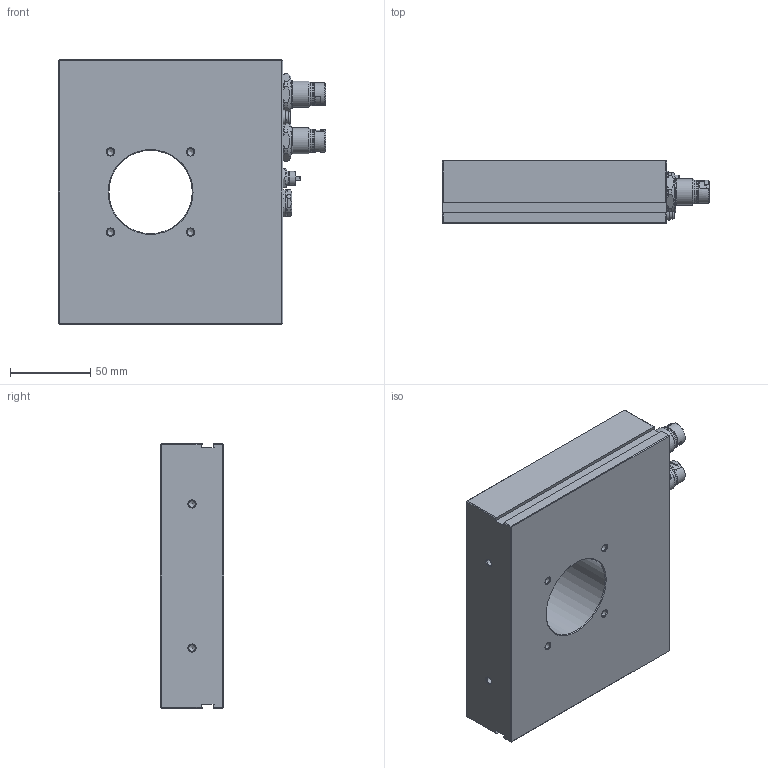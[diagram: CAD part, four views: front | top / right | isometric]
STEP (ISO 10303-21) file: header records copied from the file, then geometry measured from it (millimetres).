
FILE_DESCRIPTION(/* description */ ('VIR2000-1010'),/* implementation_level */ '2;1');
FILE_NAME(/* name */ 'C:\_Vault-Workspace\CAD-Daten\Vision\Beleuchtung\_Onlinezeichnung\0000010138_Maßzeichnung_VIR2000-1010.stp',/* time_stamp */ '2023-01-03T09:53:50+01:00',/* author */ ('MaximP'),/* organization */ (''),/* preprocessor_version */ 'ST-DEVELOPER v18.1',/* originating_system */ 'Autodesk Inventor 2022',/* authorisation */ '');
FILE_SCHEMA (('CONFIG_CONTROL_DESIGN'));
Products named in the file (1): 0000010138_Maßzeichnung_VIR2000-1010
Bounding box: 166.7 x 39.56 x 165 mm (x, y, z)
Volume: 832975.1 mm3; surface area: 95140.8 mm2
Topology: 1 solids, 99 shells, 3152 faces, 8131 edges, 5169 vertices
Faces by surface type: plane 1708, cylinder 838, bspline 378, cone 139, torus 65, sphere 24
Full cylindrical faces by diameter (mm): 0.8 x12, 1 x13, 1.1 x8, 1.4 x4, 1.5 x56, 1.85 x2, 2 x2, 2.2 x8, 3 x2, 3.2 x2, 4 x1, 4.134 x6, 4.3 x1, 4.53 x1, 5 x1, 6.9 x1, 7.1 x1, 7.6 x1, 8.2 x1, 8.7 x1, 9 x1, 12.2 x2, 12.5 x2, 14.5 x4, 14.6 x2, 16.5 x4, 17 x2, 52 x1, 55 x1, 55.4 x1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
Entity records: 121023 total; most frequent: CARTESIAN_POINT 42549, ORIENTED_EDGE 16430, DIRECTION 14548, EDGE_CURVE 8215, VERTEX_POINT 5169, AXIS2_PLACEMENT_3D 4923, LINE 4702, VECTOR 4702
